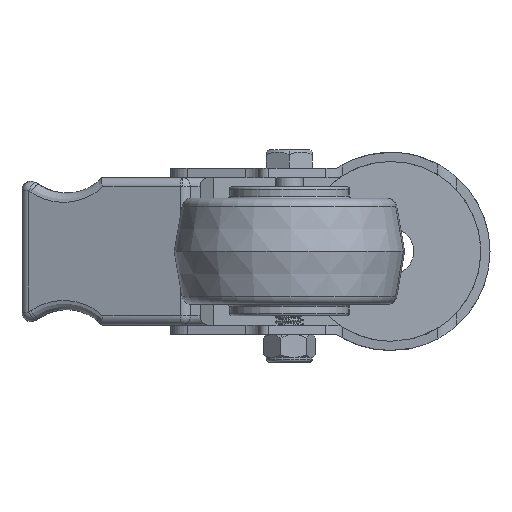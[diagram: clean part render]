
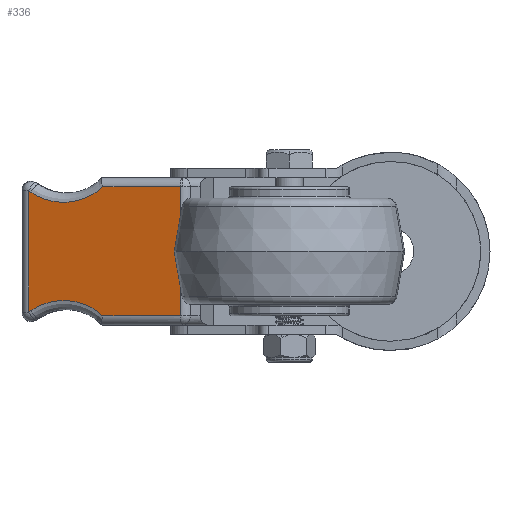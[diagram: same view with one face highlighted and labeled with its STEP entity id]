
A CAD part, front view. The second image highlights one B-rep face of the part: STEP entity #336.
In plain terms, the highlighted planar face has unit normal (-0.294, -0.956, 0) as drawn and (0.295, 0.956, 0) by its records, which use the part's own axes.
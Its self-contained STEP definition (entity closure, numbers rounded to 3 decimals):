
#61 = DIRECTION ( 'NONE',  ( -0.956, 0.295, 0. ) ) ;
#73 = CARTESIAN_POINT ( 'NONE',  ( 78.1, 7.586, 12.855 ) ) ;
#170 = B_SPLINE_CURVE_WITH_KNOTS ( 'NONE', 3,
 ( #19944, #2187, #10105, #233 ),
 .UNSPECIFIED., .F., .F.,
 ( 4, 4 ),
 ( 0., 0.001 ),
 .UNSPECIFIED. ) ;
#233 = CARTESIAN_POINT ( 'NONE',  ( 78.1, 7.586, -12.855 ) ) ;
#336 = ADVANCED_FACE ( 'NONE', ( #11446 ), #3785, .F. ) ;
#955 = VERTEX_POINT ( 'NONE', #12373 ) ;
#1450 = DIRECTION ( 'NONE',  ( 0.956, -0.295, 0. ) ) ;
#1703 = VECTOR ( 'NONE', #4232, 1000. ) ;
#1778 = EDGE_CURVE ( 'NONE', #15438, #17983, #4378, .T. ) ;
#1898 = B_SPLINE_CURVE_WITH_KNOTS ( 'NONE', 3,
 ( #73, #10449, #12520, #2409 ),
 .UNSPECIFIED., .F., .F.,
 ( 4, 4 ),
 ( 0., 0.001 ),
 .UNSPECIFIED. ) ;
#1969 = DIRECTION ( 'NONE',  ( -0.295, -0.956, 0. ) ) ;
#1977 = CARTESIAN_POINT ( 'NONE',  ( 78.1, 7.586, -12.855 ) ) ;
#1979 = CARTESIAN_POINT ( 'NONE',  ( 78.1, 7.586, -12.855 ) ) ;
#2016 = LINE ( 'NONE', #17831, #16319 ) ;
#2187 = CARTESIAN_POINT ( 'NONE',  ( 78.422, 7.486, -13.067 ) ) ;
#2273 = ORIENTED_EDGE ( 'NONE', *, *, #23637, .T. ) ;
#2409 = CARTESIAN_POINT ( 'NONE',  ( 78.589, 7.435, 13.163 ) ) ;
#2430 = CARTESIAN_POINT ( 'NONE',  ( 78.589, 7.435, 13.163 ) ) ;
#3404 = CARTESIAN_POINT ( 'NONE',  ( 44.306, 18., 14. ) ) ;
#3525 = DIRECTION ( 'NONE',  ( 0.956, -0.295, 0. ) ) ;
#3785 = PLANE ( 'NONE',  #19491 ) ;
#4067 =( BOUNDED_CURVE ( )  B_SPLINE_CURVE ( 3, ( #18712, #24777, #10815, #13012 ),
 .UNSPECIFIED., .F., .F. ) 
 B_SPLINE_CURVE_WITH_KNOTS ( ( 4, 4 ),
 ( 3.991, 5.294 ),
 .UNSPECIFIED. ) 
 CURVE ( )  GEOMETRIC_REPRESENTATION_ITEM ( )  RATIONAL_B_SPLINE_CURVE ( ( 1., 0.863, 0.863, 1. ) ) 
 REPRESENTATION_ITEM ( '' )  );
#4232 = DIRECTION ( 'NONE',  ( 0., 0., 1. ) ) ;
#4356 = VERTEX_POINT ( 'NONE', #20090 ) ;
#4378 =( BOUNDED_CURVE ( )  B_SPLINE_CURVE ( 3, ( #1979, #19482, #15846, #5517 ),
 .UNSPECIFIED., .F., .F. ) 
 B_SPLINE_CURVE_WITH_KNOTS ( ( 4, 4 ),
 ( 0.99, 2.293 ),
 .UNSPECIFIED. ) 
 CURVE ( )  GEOMETRIC_REPRESENTATION_ITEM ( )  RATIONAL_B_SPLINE_CURVE ( ( 1., 0.863, 0.863, 1. ) ) 
 REPRESENTATION_ITEM ( '' )  );
#4612 = CARTESIAN_POINT ( 'NONE',  ( 45.68, 17.576, -60.577 ) ) ;
#5517 = CARTESIAN_POINT ( 'NONE',  ( 62.441, 12.411, -14. ) ) ;
#5900 = CARTESIAN_POINT ( 'NONE',  ( 78.589, 7.435, -13.163 ) ) ;
#8182 = EDGE_CURVE ( 'NONE', #14160, #4356, #18705, .T. ) ;
#8258 = LINE ( 'NONE', #4612, #1703 ) ;
#8819 = ORIENTED_EDGE ( 'NONE', *, *, #9671, .T. ) ;
#9671 = EDGE_CURVE ( 'NONE', #17983, #955, #2016, .T. ) ;
#10105 = CARTESIAN_POINT ( 'NONE',  ( 78.259, 7.537, -12.964 ) ) ;
#10449 = CARTESIAN_POINT ( 'NONE',  ( 78.259, 7.537, 12.964 ) ) ;
#10815 = CARTESIAN_POINT ( 'NONE',  ( 73.035, 9.146, 9.398 ) ) ;
#10831 = EDGE_CURVE ( 'NONE', #14200, #14231, #1898, .T. ) ;
#11153 = EDGE_CURVE ( 'NONE', #14231, #18766, #13667, .T. ) ;
#11446 = FACE_OUTER_BOUND ( 'NONE', #18860, .T. ) ;
#12373 = CARTESIAN_POINT ( 'NONE',  ( 45.68, 17.576, -14. ) ) ;
#12520 = CARTESIAN_POINT ( 'NONE',  ( 78.422, 7.486, 13.067 ) ) ;
#13012 = CARTESIAN_POINT ( 'NONE',  ( 78.1, 7.586, 12.855 ) ) ;
#13272 = ORIENTED_EDGE ( 'NONE', *, *, #11153, .T. ) ;
#13667 = LINE ( 'NONE', #25052, #22475 ) ;
#13847 = CARTESIAN_POINT ( 'NONE',  ( 62.441, 12.411, -14. ) ) ;
#13973 = ORIENTED_EDGE ( 'NONE', *, *, #15247, .T. ) ;
#13989 = ORIENTED_EDGE ( 'NONE', *, *, #23829, .T. ) ;
#14160 = VERTEX_POINT ( 'NONE', #19422 ) ;
#14200 = VERTEX_POINT ( 'NONE', #23926 ) ;
#14231 = VERTEX_POINT ( 'NONE', #2430 ) ;
#14527 = ORIENTED_EDGE ( 'NONE', *, *, #1778, .T. ) ;
#15247 = EDGE_CURVE ( 'NONE', #4356, #14200, #4067, .T. ) ;
#15438 = VERTEX_POINT ( 'NONE', #1977 ) ;
#15846 = CARTESIAN_POINT ( 'NONE',  ( 66.99, 11.009, -9.839 ) ) ;
#16319 = VECTOR ( 'NONE', #61, 1000. ) ;
#17831 = CARTESIAN_POINT ( 'NONE',  ( 44.306, 18., -14. ) ) ;
#17983 = VERTEX_POINT ( 'NONE', #13847 ) ;
#18705 = LINE ( 'NONE', #3404, #20009 ) ;
#18712 = CARTESIAN_POINT ( 'NONE',  ( 62.441, 12.411, 14. ) ) ;
#18713 = ORIENTED_EDGE ( 'NONE', *, *, #10831, .T. ) ;
#18766 = VERTEX_POINT ( 'NONE', #5900 ) ;
#18860 = EDGE_LOOP ( 'NONE', ( #13272, #2273, #14527, #8819, #13989, #24535, #13973, #18713 ) ) ;
#19422 = CARTESIAN_POINT ( 'NONE',  ( 45.68, 17.576, 14. ) ) ;
#19482 = CARTESIAN_POINT ( 'NONE',  ( 73.035, 9.146, -9.398 ) ) ;
#19491 = AXIS2_PLACEMENT_3D ( 'NONE', #23216, #1969, #3525 ) ;
#19944 = CARTESIAN_POINT ( 'NONE',  ( 78.589, 7.435, -13.163 ) ) ;
#20009 = VECTOR ( 'NONE', #1450, 1000. ) ;
#20090 = CARTESIAN_POINT ( 'NONE',  ( 62.441, 12.411, 14. ) ) ;
#21416 = DIRECTION ( 'NONE',  ( 0., 0., -1. ) ) ;
#22475 = VECTOR ( 'NONE', #21416, 1000. ) ;
#23216 = CARTESIAN_POINT ( 'NONE',  ( 44.306, 18., -60.577 ) ) ;
#23637 = EDGE_CURVE ( 'NONE', #18766, #15438, #170, .T. ) ;
#23829 = EDGE_CURVE ( 'NONE', #955, #14160, #8258, .T. ) ;
#23926 = CARTESIAN_POINT ( 'NONE',  ( 78.1, 7.586, 12.855 ) ) ;
#24535 = ORIENTED_EDGE ( 'NONE', *, *, #8182, .T. ) ;
#24777 = CARTESIAN_POINT ( 'NONE',  ( 66.99, 11.009, 9.839 ) ) ;
#25052 = CARTESIAN_POINT ( 'NONE',  ( 78.589, 7.435, -60.577 ) ) ;
